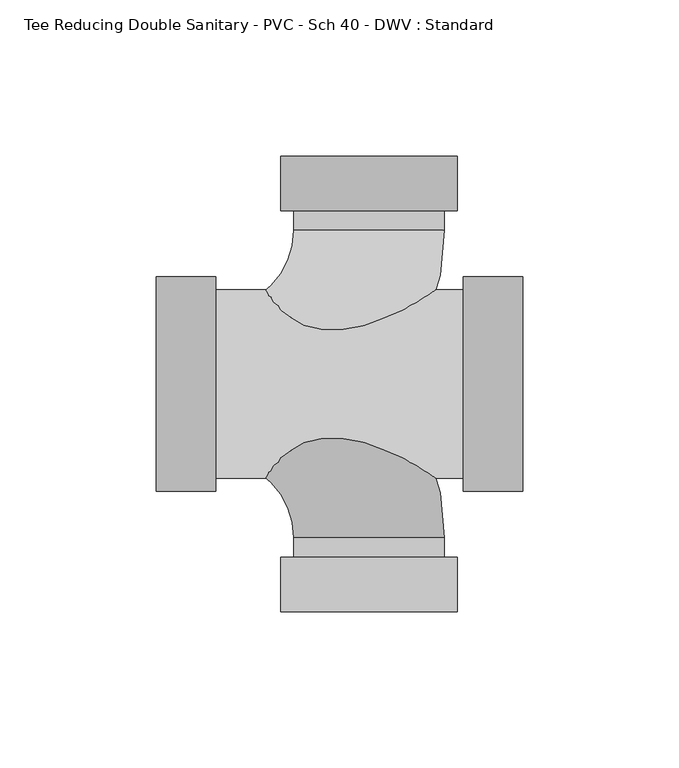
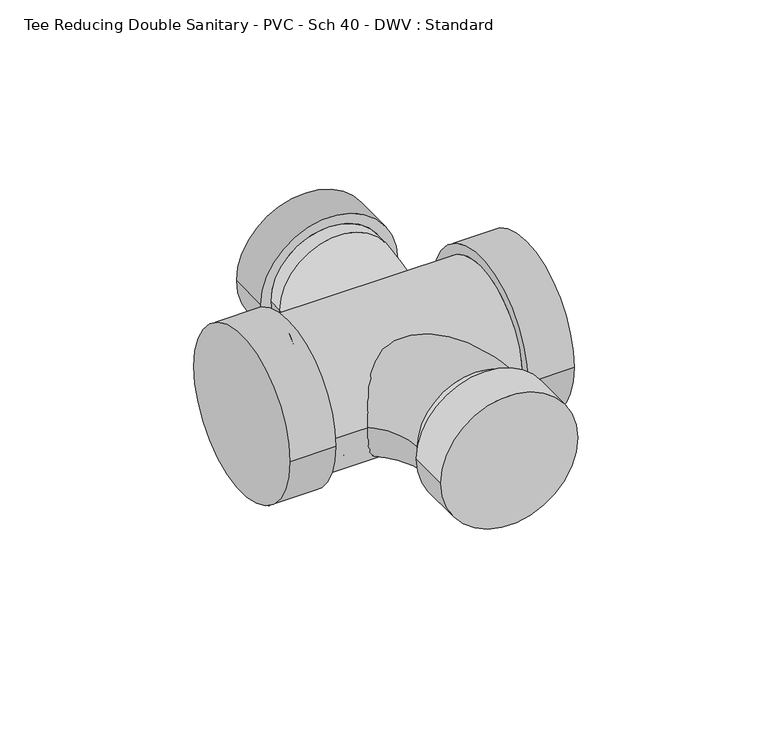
"""IFC4 building model written with IfcOpenShell, lengths in millimetres: pipe fitting geometry, Tee Reducing Double Sanitary - PVC - Sch 40 - DWV : Standard."""

from ifc_helpers import new_model, si_unit, point, frame, origin, place, context, project, spatial, circle_curve, ellipse_curve, trimmed, source, transform, mapped, element, save
from ifc_brep_helpers import plane_surface, cylinder_surface, revolved_surface, advanced_brep


def tee_reducing_double_sanitary_pvc_sch_40_dwv_standard_617f8680(model_context):
    return source(origin(), model_context, "Body", "AdvancedBrep", [
        advanced_brep(
        [(28.2829, -73.025, 0.0), (-28.2829, -73.025, 0.0), (28.2829, -55.5752, 0.0), (-28.2829, -55.5752, 0.0), (24.13, -55.5752, 0.0), (-24.13, -55.5752, 0.0), (24.13, -49.2252, 0.0), (-24.13, -49.2252, 0.0), (-49.2252, -24.13, 0.0), (-49.2252, 24.13, 0.0)],
        [
            (0, 1, circle_curve(frame((0.0, -73.025, 0.0), z_axis=(0.0, -1.0, 0.0), x_axis=(-1.0, 0.0, 0.0)), 28.2829)),
            (1, 0, circle_curve(frame((0.0, -73.025, 0.0), z_axis=(0.0, -1.0, 0.0), x_axis=(-1.0, 0.0, 0.0)), 28.2829)),
            (2, 3, circle_curve(frame((0.0, -55.5752, 0.0), z_axis=(0.0, 1.0, 0.0), x_axis=(-1.0, 0.0, 0.0)), 28.2829)),
            (3, 2, circle_curve(frame((0.0, -55.5752, 0.0), z_axis=(0.0, 1.0, 0.0), x_axis=(-1.0, 0.0, 0.0)), 28.2829)),
            (4, 5, circle_curve(frame((0.0, -55.5752, 0.0), z_axis=(0.0, -1.0, 0.0), x_axis=(-1.0, 0.0, 0.0)), 24.13)),
            (5, 4, circle_curve(frame((0.0, -55.5752, 0.0), z_axis=(0.0, -1.0, 0.0), x_axis=(-1.0, 0.0, 0.0)), 24.13)),
            (0, 2),
            (3, 1),
            (4, 6),
            (6, 7, circle_curve(frame((0.0, -49.2252, 0.0), z_axis=(0.0, -1.0, 0.0), x_axis=(-1.0, 0.0, 0.0)), 24.13)),
            (7, 5),
            (7, 6, circle_curve(frame((0.0, -49.2252, 0.0), z_axis=(0.0, -1.0, 0.0), x_axis=(-1.0, 0.0, 0.0)), 24.13)),
            (8, 9, circle_curve(frame((-49.2252, 0.0, 0.0), z_axis=(-1.0, 0.0, 0.0), x_axis=(0.0, 1.0, 0.0)), 24.13)),
            (9, 8, circle_curve(frame((-49.2252, 0.0, 0.0), z_axis=(-1.0, 0.0, 0.0), x_axis=(0.0, 1.0, 0.0)), 24.13)),
            (8, 7, circle_curve(frame((-49.2252, -49.2252, 0.0), z_axis=(0.0, 0.0, -1.0), x_axis=(0.0, 1.0, 0.0)), 25.0952)),
            (6, 9, circle_curve(frame((-49.2252, -49.2252, 0.0), z_axis=(0.0, 0.0, 1.0), x_axis=(0.0, 1.0, 0.0)), 73.3552)),
        ],
        [
            plane_surface(frame((0.0, -73.025, 0.0), z_axis=(0.0, -1.0, 0.0), x_axis=(0.0, 0.0, 1.0))),
            plane_surface(frame((0.0, -55.5752, 0.0), z_axis=(0.0, 1.0, 0.0), x_axis=(0.0, 0.0, 1.0))),
            cylinder_surface(frame((0.0, -73.025, 0.0), z_axis=(0.0, -1.0, 0.0), x_axis=(-1.0, 0.0, 0.0)), 28.2829),
            cylinder_surface(frame((0.0, -73.025, 0.0), z_axis=(0.0, -1.0, 0.0), x_axis=(-1.0, 0.0, 0.0)), 24.13),
            plane_surface(frame((-49.2252, 0.0, 0.0), z_axis=(-1.0, 0.0, 0.0), x_axis=(0.0, 0.0, 1.0))),
            revolved_surface(trimmed(ellipse_curve(frame((-49.2252, 0.0, 0.0), z_axis=(-1.0, 0.0, 0.0), x_axis=(0.0, 1.0, 0.0)), 24.13, 24.13), [point((-49.2252, -24.13, 0.0))], [point((-49.2252, 24.13, 0.0))], True, "CARTESIAN"), (-49.2252, -49.2252, 0.0), (0.0, 0.0, -1.0)),
            revolved_surface(trimmed(ellipse_curve(frame((-49.2252, 0.0, 0.0), z_axis=(-1.0, 0.0, 0.0), x_axis=(0.0, 1.0, 0.0)), 24.13, 24.13), [point((-49.2252, 24.13, 0.0))], [point((-49.2252, -24.13, 0.0))], True, "CARTESIAN"), (-49.2252, -49.2252, 0.0), (0.0, 0.0, -1.0)),
        ],
        [
            (0, [[1, 2]]),
            (1, [[3, 4], [5, 6]]),
            (2, [[-1, 7, -4, 8]]),
            (2, [[-2, -8, -3, -7]]),
            (3, [[9, 10, 11, -5]]),
            (3, [[-9, -6, -11, 12]]),
            (4, [[13, 14]]),
            (5, [[-13, 15, -10, 16]]),
            (6, [[-14, -16, -12, -15]]),
        ],
    ),
        advanced_brep(
        [(-49.2252, -24.13, 0.0), (-49.2252, 24.13, 0.0), (24.13, 49.2252, 0.0), (-24.13, 49.2252, 0.0), (-28.2829, 73.025, 0.0), (28.2829, 73.025, 0.0), (24.13, 55.5752, 0.0), (-24.13, 55.5752, 0.0), (-28.2829, 55.5752, 0.0), (28.2829, 55.5752, 0.0)],
        [
            (0, 1, circle_curve(frame((-49.2252, 0.0, 0.0), z_axis=(-1.0, 0.0, 0.0), x_axis=(0.0, 1.0, 0.0)), 24.13)),
            (1, 0, circle_curve(frame((-49.2252, 0.0, 0.0), z_axis=(-1.0, 0.0, 0.0), x_axis=(0.0, 1.0, 0.0)), 24.13)),
            (0, 2, circle_curve(frame((-49.2252, 49.2252, 0.0), z_axis=(0.0, 0.0, 1.0), x_axis=(0.0, -1.0, 0.0)), 73.3552)),
            (2, 3, circle_curve(frame((0.0, 49.2252, 0.0), z_axis=(0.0, -1.0, 0.0), x_axis=(-1.0, 0.0, 0.0)), 24.13)),
            (3, 1, circle_curve(frame((-49.2252, 49.2252, 0.0), z_axis=(0.0, 0.0, -1.0), x_axis=(0.0, -1.0, 0.0)), 25.0952)),
            (3, 2, circle_curve(frame((0.0, 49.2252, 0.0), z_axis=(0.0, -1.0, 0.0), x_axis=(-1.0, 0.0, 0.0)), 24.13)),
            (4, 5, circle_curve(frame((0.0, 73.025, 0.0), z_axis=(0.0, 1.0, 0.0), x_axis=(1.0, 0.0, 0.0)), 28.2829)),
            (5, 4, circle_curve(frame((0.0, 73.025, 0.0), z_axis=(0.0, 1.0, 0.0), x_axis=(1.0, 0.0, 0.0)), 28.2829)),
            (2, 6),
            (6, 7, circle_curve(frame((0.0, 55.5752, 0.0), z_axis=(0.0, -1.0, 0.0), x_axis=(-1.0, 0.0, 0.0)), 24.13)),
            (7, 3),
            (7, 6, circle_curve(frame((0.0, 55.5752, 0.0), z_axis=(0.0, -1.0, 0.0), x_axis=(-1.0, 0.0, 0.0)), 24.13)),
            (8, 9, circle_curve(frame((0.0, 55.5752, 0.0), z_axis=(0.0, -1.0, 0.0), x_axis=(1.0, 0.0, 0.0)), 28.2829)),
            (9, 8, circle_curve(frame((0.0, 55.5752, 0.0), z_axis=(0.0, -1.0, 0.0), x_axis=(1.0, 0.0, 0.0)), 28.2829)),
            (4, 8),
            (9, 5),
        ],
        [
            plane_surface(frame((-49.2252, 0.0, 0.0), z_axis=(-1.0, 0.0, 0.0), x_axis=(0.0, 0.0, 1.0))),
            revolved_surface(trimmed(ellipse_curve(frame((-49.2252, 0.0, 0.0), z_axis=(-1.0, 0.0, 0.0), x_axis=(0.0, 1.0, 0.0)), 24.13, 24.13), [point((-49.2252, -24.13, 0.0))], [point((-49.2252, 24.13, 0.0))], True, "CARTESIAN"), (-49.2252, 49.2252, 0.0), (0.0, 0.0, 1.0)),
            revolved_surface(trimmed(ellipse_curve(frame((-49.2252, 0.0, 0.0), z_axis=(-1.0, 0.0, 0.0), x_axis=(0.0, 1.0, 0.0)), 24.13, 24.13), [point((-49.2252, 24.13, 0.0))], [point((-49.2252, -24.13, 0.0))], True, "CARTESIAN"), (-49.2252, 49.2252, 0.0), (0.0, 0.0, 1.0)),
            plane_surface(frame((0.0, 73.025, 0.0), z_axis=(0.0, 1.0, 0.0), x_axis=(0.0, 0.0, 1.0))),
            cylinder_surface(frame((0.0, 49.2252, 0.0), z_axis=(0.0, -1.0, 0.0), x_axis=(-1.0, 0.0, 0.0)), 24.13),
            plane_surface(frame((0.0, 55.5752, 0.0), z_axis=(0.0, -1.0, 0.0), x_axis=(0.0, 0.0, 1.0))),
            cylinder_surface(frame((0.0, 73.025, 0.0), z_axis=(0.0, 1.0, 0.0), x_axis=(1.0, 0.0, 0.0)), 28.2829),
        ],
        [
            (0, [[1, 2]]),
            (1, [[-1, 3, 4, 5]]),
            (2, [[-2, -5, 6, -3]]),
            (3, [[7, 8]]),
            (4, [[-4, 9, 10, 11]]),
            (4, [[-6, -11, 12, -9]]),
            (5, [[13, 14], [-10, -12]]),
            (6, [[-7, 15, -14, 16]]),
            (6, [[-8, -16, -13, -15]]),
        ],
    ),
        advanced_brep(
        [(-68.2752, -34.3154, 0.0), (-68.2752, 34.3154, 0.0), (-49.2252, -34.3154, 0.0), (-49.2252, 34.3154, 0.0), (-49.2252, 30.1625, 0.0), (-49.2252, -30.1625, 0.0), (30.1498, 30.1625, 0.0), (30.1498, -30.1625, 0.0), (30.1498, -34.3154, 0.0), (30.1498, 34.3154, 0.0), (49.1998, -34.3154, 0.0), (49.1998, 34.3154, 0.0)],
        [
            (0, 1, circle_curve(frame((-68.2752, 0.0, 0.0), z_axis=(-1.0, 0.0, 0.0), x_axis=(0.0, 1.0, 0.0)), 34.3154)),
            (1, 0, circle_curve(frame((-68.2752, 0.0, 0.0), z_axis=(-1.0, 0.0, 0.0), x_axis=(0.0, 1.0, 0.0)), 34.3154)),
            (2, 3, circle_curve(frame((-49.2252, 0.0, 0.0), z_axis=(1.0, 0.0, 0.0), x_axis=(0.0, 1.0, 0.0)), 34.3154)),
            (3, 2, circle_curve(frame((-49.2252, 0.0, 0.0), z_axis=(1.0, 0.0, 0.0), x_axis=(0.0, 1.0, 0.0)), 34.3154)),
            (4, 5, circle_curve(frame((-49.2252, 0.0, 0.0), z_axis=(-1.0, 0.0, 0.0), x_axis=(0.0, 0.0, -1.0)), 30.1625)),
            (5, 4, circle_curve(frame((-49.2252, 0.0, 0.0), z_axis=(-1.0, 0.0, 0.0), x_axis=(0.0, 0.0, 1.0)), 30.1625)),
            (0, 2),
            (3, 1),
            (4, 6),
            (6, 7, circle_curve(frame((30.1498, 0.0, 0.0), z_axis=(-1.0, 0.0, 0.0), x_axis=(0.0, 0.0, -1.0)), 30.1625)),
            (7, 5),
            (7, 6, circle_curve(frame((30.1498, 0.0, 0.0), z_axis=(-1.0, 0.0, 0.0), x_axis=(0.0, 0.0, 1.0)), 30.1625)),
            (8, 9, circle_curve(frame((30.1498, 0.0, 0.0), z_axis=(-1.0, 0.0, 0.0), x_axis=(0.0, 1.0, 0.0)), 34.3154)),
            (9, 8, circle_curve(frame((30.1498, 0.0, 0.0), z_axis=(-1.0, 0.0, 0.0), x_axis=(0.0, 1.0, 0.0)), 34.3154)),
            (10, 11, circle_curve(frame((49.1998, 0.0, 0.0), z_axis=(1.0, 0.0, 0.0), x_axis=(0.0, 1.0, 0.0)), 34.3154)),
            (11, 10, circle_curve(frame((49.1998, 0.0, 0.0), z_axis=(1.0, 0.0, 0.0), x_axis=(0.0, 1.0, 0.0)), 34.3154)),
            (8, 10),
            (11, 9),
        ],
        [
            plane_surface(frame((-68.2752, 0.0, 0.0), z_axis=(-1.0, 0.0, 0.0), x_axis=(0.0, 0.0, 1.0))),
            plane_surface(frame((-49.2252, 0.0, 0.0), z_axis=(1.0, 0.0, 0.0), x_axis=(0.0, 0.0, 1.0))),
            cylinder_surface(frame((-68.2752, 0.0, 0.0), z_axis=(-1.0, 0.0, 0.0), x_axis=(0.0, 1.0, 0.0)), 34.3154),
            cylinder_surface(frame((-49.2252, 0.0, 0.0), z_axis=(1.0, 0.0, 0.0), x_axis=(0.0, 0.0, -1.0)), 30.1625),
            cylinder_surface(frame((-49.2252, 0.0, 0.0), z_axis=(1.0, 0.0, 0.0), x_axis=(0.0, 0.0, 1.0)), 30.1625),
            plane_surface(frame((30.1498, 0.0, 0.0), z_axis=(-1.0, 0.0, 0.0), x_axis=(0.0, 0.0, 1.0))),
            plane_surface(frame((49.1998, 0.0, 0.0), z_axis=(1.0, 0.0, 0.0), x_axis=(0.0, 0.0, 1.0))),
            cylinder_surface(frame((30.1498, 0.0, 0.0), z_axis=(-1.0, 0.0, 0.0), x_axis=(0.0, 1.0, 0.0)), 34.3154),
        ],
        [
            (0, [[1, 2]]),
            (1, [[3, 4], [5, 6]]),
            (2, [[-1, 7, -4, 8]]),
            (2, [[-2, -8, -3, -7]]),
            (3, [[9, 10, 11, -5]]),
            (4, [[-9, -6, -11, 12]]),
            (5, [[13, 14], [-10, -12]]),
            (6, [[15, 16]]),
            (7, [[-13, 17, -16, 18]]),
            (7, [[-14, -18, -15, -17]]),
        ],
    ),
    ])


if __name__ == "__main__":
    model = new_model("IFC4")
    model_context = context("Model", 3, world=origin())
    ifc_project = project(units=[si_unit("LENGTHUNIT", "METRE", prefix="MILLI")], contexts=[model_context])
    site = spatial("IfcSite", under=ifc_project)
    building = spatial("IfcBuilding", under=site)
    placement = place(None, origin())
    tee_reducing_double_sanitary_pvc_sch_40_dwv_standard_shape = tee_reducing_double_sanitary_pvc_sch_40_dwv_standard_617f8680(model_context)
    element("IfcPipeFitting", 1, ObjectType="Tee Reducing Double Sanitary - PVC - Sch 40 - DWV : Standard", at=placement, inside=building, context=model_context, shape_type="MappedRepresentation", body=[
        mapped(tee_reducing_double_sanitary_pvc_sch_40_dwv_standard_shape, transform((0.0, 0.0, 0.0), x_axis=(1.0, 0.0, 0.0), y_axis=(0.0, 1.0, 0.0), z_axis=(0.0, 0.0, 1.0))),
    ])
    save(model, "model.ifc")
